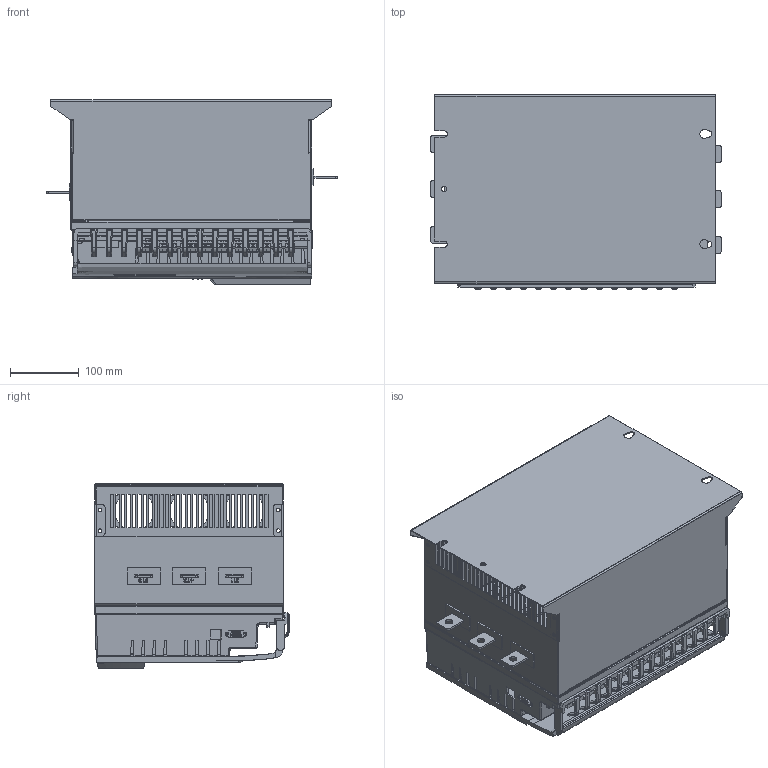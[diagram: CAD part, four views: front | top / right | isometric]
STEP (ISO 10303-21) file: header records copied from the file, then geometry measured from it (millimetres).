
FILE_DESCRIPTION(('STEP AP203'), '1');
FILE_NAME('SNI 75-115 êÂò', '2024-05-06T08:53:42', ('admin'), (''), 'C3D Converter', 'C3D Toolkit', '');
FILE_SCHEMA(('CONFIG_CONTROL_DESIGN'));
Length unit declared in the file: millimetre
Products named in the file (46): SNI-90-170-04; SNI; 7000-DUANZI-750-1P_AF0; 7000-DUANZI-750-1P_AF1; 7000-DUANZI-750-1P_AF2; 7000-DUANZI-750-1P_AF3; 7000-DUANZI-750-1P_AF4; 7000-DUANZI-750-1P_AF5; 7000-DUANZI-750-1P_AF6; 7000-DUANZI-750-1P_AF7; 7000-DUANZI-750-1P_AF8; 7000-DUANZI-750-1P_AF9; PRT0001; 7000-DUANZI-750-1P_AF10; 7000-DUANZI-750-1P_AF11
Assembly tree (67 placements, depth 4):
  SNI-90-170-04
    SNI
      SNI
    SNI
    SNI
    SNI  x3
    SNI  x3
    SNI
    SNI
    SNI
    SNI
    SNI
    SNI
    SNI
    SNI
    SNI
    SNI
      SNI
      SNI
      SNI  x3
        SNI
      SNI
        SNI  x5
      SNI
        7000-DUANZI-750-1P_AF0
        7000-DUANZI-750-1P_AF1
        7000-DUANZI-750-1P_AF2
        7000-DUANZI-750-1P_AF3
        7000-DUANZI-750-1P_AF4
        7000-DUANZI-750-1P_AF5
        7000-DUANZI-750-1P_AF6
        7000-DUANZI-750-1P_AF7
        7000-DUANZI-750-1P_AF8
        7000-DUANZI-750-1P_AF9
        PRT0001
      SNI
        SNI  x10
      SNI
        7000-DUANZI-750-1P_AF10
        7000-DUANZI-750-1P_AF11
      SNI
      SNI
        SNI
    SNI
      SNI
      SNI
      SNI
      SNI
Bounding box: 422 x 282.2 x 268.6 mm (x, y, z)
Volume: 1937356.7 mm3; surface area: 1750485.7 mm2
Topology: 58 solids, 63 shells, 5068 faces, 13446 edges, 8667 vertices
Faces by surface type: plane 3634, cylinder 1170, bspline 93, cone 72, torus 52, sphere 37, extrusion 7, revolution 3
Full cylindrical faces by diameter (mm): 0.5 x2, 0.8 x9, 1 x9, 2 x6, 2.3 x10, 3 x49, 3.2 x7, 3.3 x6, 3.34 x1, 3.8 x33, 4 x56, 4.064 x4, 5 x22, 5.4 x22, 7 x2, 7.2 x19, 8 x1, 9 x15, 11 x6, 57 x3
Entity records: 168643 total; most frequent: CARTESIAN_POINT 40948, ORIENTED_EDGE 19762, DIRECTION 18500, EDGE_CURVE 9905, VECTOR 7731, LINE 7724, VERTEX_POINT 6542, AXIS2_PLACEMENT_3D 5383
